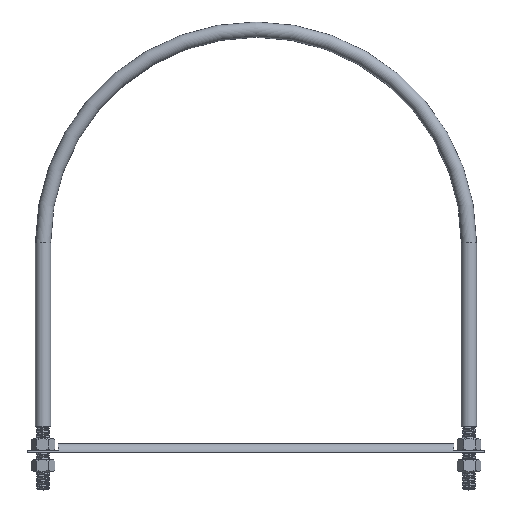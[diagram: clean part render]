
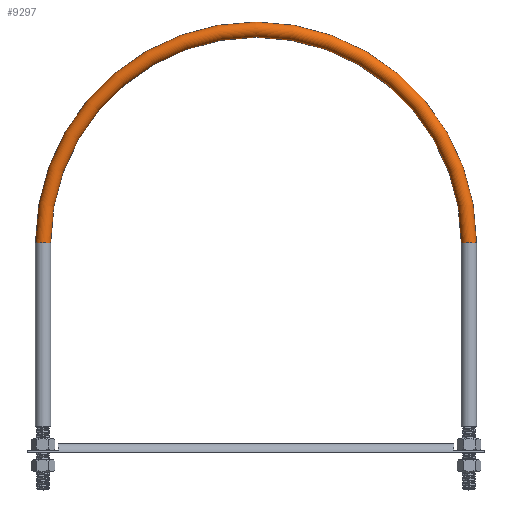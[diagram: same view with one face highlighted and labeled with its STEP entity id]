
A CAD part, top view. The second image highlights one B-rep face of the part: STEP entity #9297.
In plain terms, the highlighted toroidal (fillet/blend) face has major radius 401.637 mm and minor radius 14.383 mm.
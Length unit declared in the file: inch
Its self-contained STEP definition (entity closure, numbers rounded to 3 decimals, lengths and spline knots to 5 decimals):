
#225 = CARTESIAN_POINT ( 'NONE',  ( 0., 18.375, 0. ) ) ;
#1682 = AXIS2_PLACEMENT_3D ( 'NONE', #225, #16838, #6140 ) ;
#2108 = CIRCLE ( 'NONE', #13357, 16.37875 ) ;
#3214 = VERTEX_POINT ( 'NONE', #4943 ) ;
#3258 = CIRCLE ( 'NONE', #4868, 0.56625 ) ;
#3881 = DIRECTION ( 'NONE',  ( 0., 0., 1. ) ) ;
#4035 = AXIS2_PLACEMENT_3D ( 'NONE', #4379, #5770, #5871 ) ;
#4258 = ORIENTED_EDGE ( 'NONE', *, *, #11973, .T. ) ;
#4379 = CARTESIAN_POINT ( 'NONE',  ( 0., 18.375, 0. ) ) ;
#4610 = AXIS2_PLACEMENT_3D ( 'NONE', #19090, #12732, #3881 ) ;
#4868 = AXIS2_PLACEMENT_3D ( 'NONE', #13686, #19837, #11955 ) ;
#4943 = CARTESIAN_POINT ( 'NONE',  ( -15.24625, 18.375, 0. ) ) ;
#4967 = EDGE_CURVE ( 'Edge1', #3214, #17913, #3258, .T. ) ;
#5459 = VERTEX_POINT ( 'NONE', #5883 ) ;
#5770 = DIRECTION ( 'NONE',  ( 0., 0., 1. ) ) ;
#5871 = DIRECTION ( 'NONE',  ( 1., 0., 0. ) ) ;
#5883 = CARTESIAN_POINT ( 'NONE',  ( 15.24625, 18.375, 0. ) ) ;
#6140 = DIRECTION ( 'NONE',  ( 1., 0., 0. ) ) ;
#6400 = ORIENTED_EDGE ( 'NONE', *, *, #18041, .F. ) ;
#6559 = VERTEX_POINT ( 'NONE', #18115 ) ;
#9208 = DIRECTION ( 'NONE',  ( 1., 0., 0. ) ) ;
#9297 = ADVANCED_FACE ( 'Face1', ( #17248 ), #15196, .T. ) ;
#10714 = CARTESIAN_POINT ( 'NONE',  ( 0., 18.375, 0. ) ) ;
#10768 = CIRCLE ( 'NONE', #4035, 15.24625 ) ;
#10987 = ORIENTED_EDGE ( 'NONE', *, *, #4967, .F. ) ;
#11955 = DIRECTION ( 'NONE',  ( 0., 0., 1. ) ) ;
#11973 = EDGE_CURVE ( 'NONE', #5459, #6559, #17809, .T. ) ;
#12462 = EDGE_LOOP ( 'NONE', ( #4258, #19518, #10987, #6400 ) ) ;
#12732 = DIRECTION ( 'NONE',  ( 0., 1., 0. ) ) ;
#13147 = CARTESIAN_POINT ( 'NONE',  ( -16.37875, 18.375, 0. ) ) ;
#13357 = AXIS2_PLACEMENT_3D ( 'NONE', #10714, #16867, #9208 ) ;
#13686 = CARTESIAN_POINT ( 'NONE',  ( -15.8125, 18.375, 0. ) ) ;
#15196 = TOROIDAL_SURFACE ( 'NONE', #1682, 15.8125, 0.56625 ) ;
#16838 = DIRECTION ( 'NONE',  ( 0., 0., 1. ) ) ;
#16867 = DIRECTION ( 'NONE',  ( 0., 0., 1. ) ) ;
#17092 = EDGE_CURVE ( 'NONE', #6559, #17913, #2108, .T. ) ;
#17248 = FACE_OUTER_BOUND ( 'NONE', #12462, .T. ) ;
#17809 = CIRCLE ( 'NONE', #4610, 0.56625 ) ;
#17913 = VERTEX_POINT ( 'NONE', #13147 ) ;
#18041 = EDGE_CURVE ( 'NONE', #5459, #3214, #10768, .T. ) ;
#18115 = CARTESIAN_POINT ( 'NONE',  ( 16.37875, 18.375, 0. ) ) ;
#19090 = CARTESIAN_POINT ( 'NONE',  ( 15.8125, 18.375, 0. ) ) ;
#19518 = ORIENTED_EDGE ( 'NONE', *, *, #17092, .T. ) ;
#19837 = DIRECTION ( 'NONE',  ( 0., -1., 0. ) ) ;
